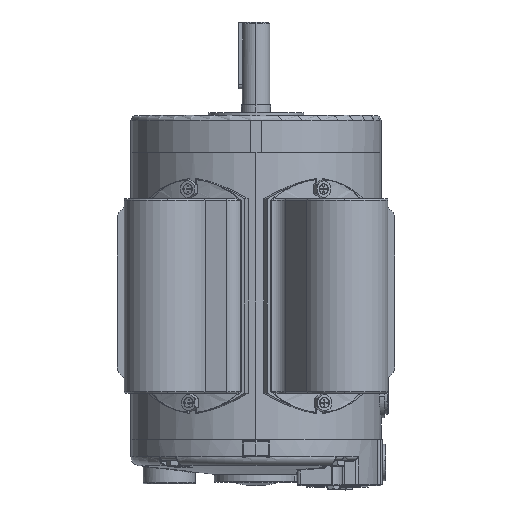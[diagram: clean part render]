
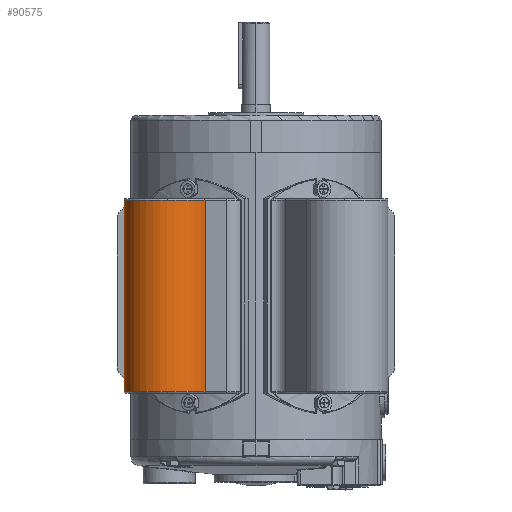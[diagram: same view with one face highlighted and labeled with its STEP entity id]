
A CAD part, top view. The second image highlights one B-rep face of the part: STEP entity #90575.
In plain terms, the highlighted cylindrical face has radius 25 mm (diameter 50 mm), a partial arc.
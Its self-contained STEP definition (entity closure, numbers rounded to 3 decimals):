
#4856 = CIRCLE ( 'NONE', #57884, 25. ) ;
#4982 = VERTEX_POINT ( 'NONE', #47412 ) ;
#5306 = CYLINDRICAL_SURFACE ( 'NONE', #35178, 25. ) ;
#6188 = AXIS2_PLACEMENT_3D ( 'NONE', #82706, #17675, #46615 ) ;
#6785 = CARTESIAN_POINT ( 'NONE',  ( -40.354, 29.446, 88.394 ) ) ;
#8300 = LINE ( 'NONE', #37214, #14662 ) ;
#10344 = EDGE_CURVE ( 'NONE', #91871, #87972, #88289, .T. ) ;
#12740 = CARTESIAN_POINT ( 'NONE',  ( -62.005, -80.554, 75.894 ) ) ;
#14662 = VECTOR ( 'NONE', #66203, 1000. ) ;
#16788 = CIRCLE ( 'NONE', #28881, 25. ) ;
#17608 = VECTOR ( 'NONE', #87558, 1000. ) ;
#17675 = DIRECTION ( 'NONE',  ( 0., 1., 0. ) ) ;
#17994 = ORIENTED_EDGE ( 'NONE', *, *, #10344, .T. ) ;
#22981 = CARTESIAN_POINT ( 'NONE',  ( -62.005, 29.446, 75.894 ) ) ;
#24363 = CARTESIAN_POINT ( 'NONE',  ( -62.005, 29.446, 75.894 ) ) ;
#28881 = AXIS2_PLACEMENT_3D ( 'NONE', #22981, #51951, #80904 ) ;
#29596 = LINE ( 'NONE', #58587, #17608 ) ;
#31667 = EDGE_LOOP ( 'NONE', ( #67960, #86420, #42160, #37277, #17994, #82543 ) ) ;
#34211 = CARTESIAN_POINT ( 'NONE',  ( -62.005, -81.554, 75.894 ) ) ;
#34999 = EDGE_CURVE ( 'NONE', #4982, #70218, #29596, .T. ) ;
#35178 = AXIS2_PLACEMENT_3D ( 'NONE', #34211, #63211, #92170 ) ;
#37214 = CARTESIAN_POINT ( 'NONE',  ( -40.354, -81.554, 88.394 ) ) ;
#37277 = ORIENTED_EDGE ( 'NONE', *, *, #66250, .T. ) ;
#41661 = DIRECTION ( 'NONE',  ( 0., 1., 0. ) ) ;
#42160 = ORIENTED_EDGE ( 'NONE', *, *, #58767, .T. ) ;
#46615 = DIRECTION ( 'NONE',  ( 0., 0., 1. ) ) ;
#47054 = CIRCLE ( 'NONE', #6188, 25. ) ;
#47330 = AXIS2_PLACEMENT_3D ( 'NONE', #24363, #53345, #82297 ) ;
#47412 = CARTESIAN_POINT ( 'NONE',  ( -83.655, -80.554, 63.394 ) ) ;
#51951 = DIRECTION ( 'NONE',  ( 0., -1., 0. ) ) ;
#53345 = DIRECTION ( 'NONE',  ( 0., -1., 0. ) ) ;
#57884 = AXIS2_PLACEMENT_3D ( 'NONE', #12740, #41661, #70677 ) ;
#58587 = CARTESIAN_POINT ( 'NONE',  ( -83.655, -25.554, 63.394 ) ) ;
#58767 = EDGE_CURVE ( 'NONE', #86437, #77864, #4856, .T. ) ;
#63211 = DIRECTION ( 'NONE',  ( 0., 1., 0. ) ) ;
#63991 = CARTESIAN_POINT ( 'NONE',  ( -83.655, 29.446, 63.394 ) ) ;
#66203 = DIRECTION ( 'NONE',  ( 0., 1., 0. ) ) ;
#66250 = EDGE_CURVE ( 'NONE', #77864, #91871, #8300, .T. ) ;
#67960 = ORIENTED_EDGE ( 'NONE', *, *, #34999, .F. ) ;
#70218 = VERTEX_POINT ( 'NONE', #63991 ) ;
#70341 = FACE_OUTER_BOUND ( 'NONE', #31667, .T. ) ;
#70547 = CARTESIAN_POINT ( 'NONE',  ( -62.005, 29.446, 100.894 ) ) ;
#70677 = DIRECTION ( 'NONE',  ( 0., 0., 1. ) ) ;
#77864 = VERTEX_POINT ( 'NONE', #83540 ) ;
#79325 = CARTESIAN_POINT ( 'NONE',  ( -62.005, -80.554, 100.894 ) ) ;
#80904 = DIRECTION ( 'NONE',  ( 0., 0., 1. ) ) ;
#82297 = DIRECTION ( 'NONE',  ( 0., 0., 1. ) ) ;
#82543 = ORIENTED_EDGE ( 'NONE', *, *, #88279, .T. ) ;
#82706 = CARTESIAN_POINT ( 'NONE',  ( -62.005, -80.554, 75.894 ) ) ;
#83540 = CARTESIAN_POINT ( 'NONE',  ( -40.354, -80.554, 88.394 ) ) ;
#85680 = EDGE_CURVE ( 'NONE', #4982, #86437, #47054, .T. ) ;
#86420 = ORIENTED_EDGE ( 'NONE', *, *, #85680, .T. ) ;
#86437 = VERTEX_POINT ( 'NONE', #79325 ) ;
#87558 = DIRECTION ( 'NONE',  ( 0., 1., 0. ) ) ;
#87972 = VERTEX_POINT ( 'NONE', #70547 ) ;
#88279 = EDGE_CURVE ( 'NONE', #87972, #70218, #16788, .T. ) ;
#88289 = CIRCLE ( 'NONE', #47330, 25. ) ;
#90575 = ADVANCED_FACE ( 'NONE', ( #70341 ), #5306, .T. ) ;
#91871 = VERTEX_POINT ( 'NONE', #6785 ) ;
#92170 = DIRECTION ( 'NONE',  ( -0.866, 0., -0.5 ) ) ;
